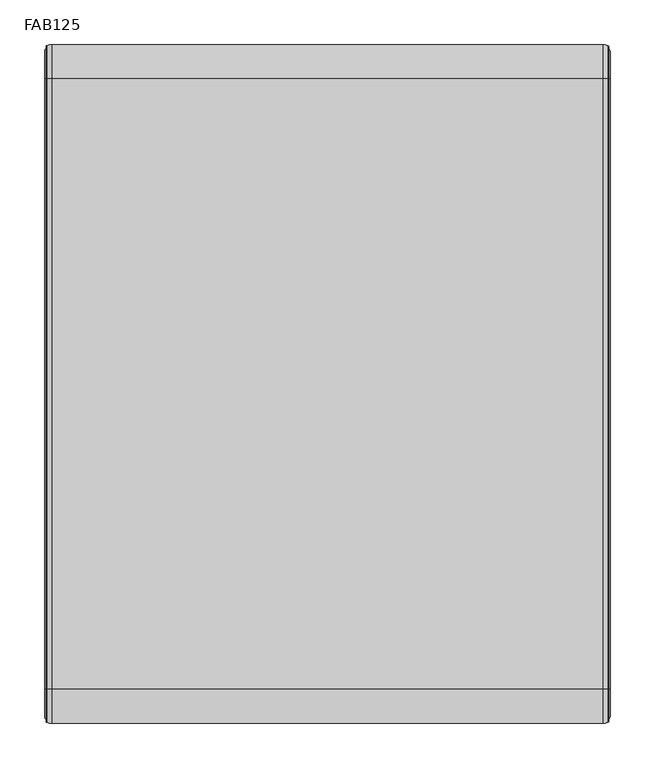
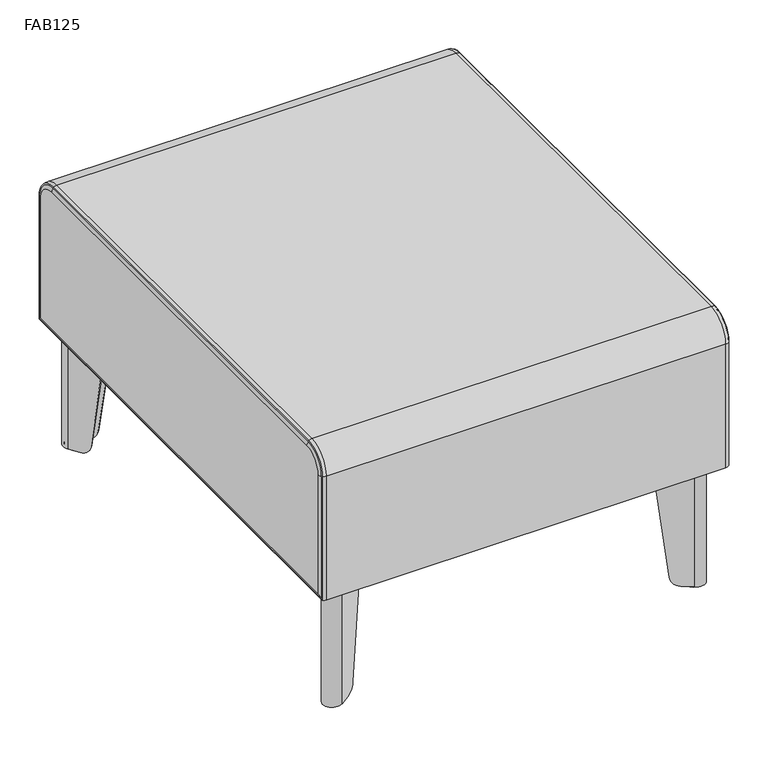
"""IFC4 building model written with IfcOpenShell, lengths in millimetres: furniture geometry, Stance_HC-Flora-Bench_Straight : FAB125."""

from ifc_helpers import new_model, si_unit, point, frame, frame_2d, origin, origin_with_axes, place, context, project, spatial, polyline, circle_curve, ellipse_curve, trimmed, segment, composite_curve, outline, extrude, source, transform, mapped, element, save
from ifc_brep_helpers import plane_surface, cylinder_surface, revolved_surface, advanced_brep


def fab125_ccfe8eac(model_context):
    return source(origin(), model_context, "Body", "SolidModel", [
        extrude(outline(composite_curve([segment(polyline([(579.1692791, -32.5186459), (592.4741789, -23.2024186)]), True, "CONTINUOUS"), segment(trimmed(circle_curve(frame_2d((599.1246983, -32.7003078)), 11.5947965), [point((592.4741789, -23.2024186))], [point((608.6225874, -39.3508272))], False, "CARTESIAN"), True, "CONTINUOUS"), segment(polyline([(608.6225874, -39.3508272), (599.3063601, -52.6557269), (579.1692791, -32.5186459)]), True, "CONTINUOUS")], self_intersect=False)), frame((0.0, 0.0, 3.175), z_axis=(0.0, 0.0, 1.0), x_axis=(1.0, 0.0, 0.0)), (0.0, 0.0, 1.0), 3.3792927),
        advanced_brep(
        [(579.3314582, -86.7866368, 193.6877233), (611.2555647, -41.1944649, 193.6877233), (590.6305412, -20.5694413, 193.6877233), (545.0383719, -52.4935459, 193.6877233), (546.8820096, -55.1265233, 193.6877233), (592.4741789, -23.2024186, 193.6877233), (608.6225874, -39.3508272, 193.6877233), (576.6984809, -84.9429991, 193.6877233), (579.3314582, -86.7866368, 189.1419595), (608.6225874, -39.3508272, 3.1876992), (598.5018779, -53.8046422, 3.1876992), (589.3247818, -66.9108427, 17.1280233), (592.4741789, -23.2024186, 3.1876992), (564.9141633, -42.5002243, 17.1280233), (578.0203639, -33.3231282, 3.1876992), (545.0383719, -52.4935459, 189.1419334), (590.6305412, -20.5694413, 3.1876992), (575.7124662, -31.0152305, 3.1876992), (562.6062656, -40.1923266, 17.1280233), (611.2555647, -41.1944649, 3.1876992), (591.6326795, -69.2187405, 17.1280233), (600.8097756, -56.1125399, 3.1876992)],
        [
            (0, 1),
            (1, 2, circle_curve(frame((599.1246983, -32.7003078, 193.6877233), z_axis=(0.0, 0.0, 1.0), x_axis=(-1.0, 0.0, 0.0)), 14.8090724)),
            (2, 3),
            (3, 4),
            (4, 5),
            (5, 6, circle_curve(frame((599.1246983, -32.7003078, 193.6877233), z_axis=(0.0, 0.0, -1.0), x_axis=(-1.0, 0.0, 0.0)), 11.5947965)),
            (6, 7),
            (7, 0),
            (7, 8),
            (8, 0),
            (6, 9),
            (9, 10),
            (10, 11, ellipse_curve(frame((598.5018779, -53.8046422, 19.0626992), z_axis=(-0.8191509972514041, 0.5735779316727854, 0.0), x_axis=(-0.5735779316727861, -0.8191509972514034, 0.0)), 16.1198923, 15.875)),
            (11, 7),
            (5, 12),
            (12, 9, circle_curve(frame((599.1246983, -32.7003078, 3.1876992), z_axis=(0.0, 0.0, -1.0), x_axis=(-1.0, 0.0, 0.0)), 11.5947965)),
            (4, 13),
            (13, 14, ellipse_curve(frame((578.0203639, -33.3231282, 19.0626992), z_axis=(0.5735779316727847, -0.8191509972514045, 0.0), x_axis=(0.8191509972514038, 0.5735779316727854, 0.0)), 16.1198923, 15.875)),
            (14, 12),
            (3, 15),
            (15, 4),
            (2, 16),
            (16, 17),
            (17, 18, ellipse_curve(frame((575.7124662, -31.0152305, 19.0626992), z_axis=(-0.5735779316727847, 0.8191509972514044, 0.0), x_axis=(0.8191509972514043, 0.573577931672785, 0.0)), 16.1198923, 15.875)),
            (18, 15),
            (1, 19),
            (19, 16, circle_curve(frame((599.1246983, -32.7003078, 3.1876992), z_axis=(0.0, 0.0, 1.0), x_axis=(-1.0, 0.0, 0.0)), 14.8090724)),
            (8, 20),
            (20, 21, ellipse_curve(frame((600.8097756, -56.1125399, 19.0626992), z_axis=(0.8191509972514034, -0.5735779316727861, 0.0), x_axis=(-0.5735779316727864, -0.8191509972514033, 0.0)), 16.1198923, 15.875)),
            (21, 19),
            (18, 13),
            (11, 20),
            (21, 10),
            (14, 17),
        ],
        [
            plane_surface(frame((576.6984809, -84.9429991, 193.6877233), z_axis=(0.0, 0.0, 1.0000000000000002), x_axis=(-0.8191509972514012, 0.5735779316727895, 0.0))),
            plane_surface(frame((579.3314582, -86.7866368, 193.6877233), z_axis=(-0.5735779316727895, -0.8191509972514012, 0.0), x_axis=(0.0, 0.0, -1.0))),
            plane_surface(frame((576.6984809, -84.9429991, 193.6877233), z_axis=(-0.8191509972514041, 0.5735779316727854, 0.0), x_axis=(0.0, 0.0, -1.0))),
            revolved_surface(polyline([(587.5299018, -32.7003078, 3.1876992), (587.5299018, -32.7003078, 193.6877233)]), (599.1246983, -32.7003078, 0.0), (0.0, 0.0, -1.0)),
            plane_surface(frame((592.4741789, -23.2024186, 193.6877233), z_axis=(0.5735779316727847, -0.8191509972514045, 0.0), x_axis=(0.0, 0.0, -1.0))),
            plane_surface(frame((546.8820096, -55.1265233, 193.6877233), z_axis=(-0.8191509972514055, -0.5735779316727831, 0.0), x_axis=(0.0, 0.0, -1.0))),
            plane_surface(frame((545.0383719, -52.4935459, 193.6877233), z_axis=(-0.5735779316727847, 0.8191509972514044, 0.0), x_axis=(0.0, 0.0, -1.0))),
            cylinder_surface(frame((599.1246983, -32.7003078, 0.0), z_axis=(0.0, 0.0, 1.0), x_axis=(-1.0, 0.0, 0.0)), 14.8090724),
            plane_surface(frame((611.2555647, -41.1944649, 193.6877233), z_axis=(0.8191509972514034, -0.5735779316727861, 0.0), x_axis=(0.0, 0.0, -1.0))),
            plane_surface(frame((556.7224625, -34.3085234, 17.1280233), z_axis=(-0.7018361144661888, -0.7018361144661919, -0.12186934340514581), x_axis=(0.7071067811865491, -0.707106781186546, 0.0))),
            plane_surface(frame((589.212818, -1.818168, 3.1876992), z_axis=(0.0, 0.0, -1.0), x_axis=(0.707106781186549, -0.707106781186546, 0.0))),
            cylinder_surface(frame((608.6497538, -63.9525182, 19.0626992), z_axis=(0.7071067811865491, -0.707106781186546, 0.0), x_axis=(-0.707106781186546, -0.7071067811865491, 0.0)), 15.875),
        ],
        [
            (0, [[1, 2, 3, 4, 5, 6, 7, 8]]),
            (1, [[9, 10, -8]]),
            (2, [[11, 12, 13, 14, -7]]),
            (3, [[15, 16, -11, -6]]),
            (4, [[17, 18, 19, -15, -5]]),
            (5, [[20, 21, -4]]),
            (6, [[22, 23, 24, 25, -20, -3]]),
            (7, [[26, 27, -22, -2]]),
            (8, [[-10, 28, 29, 30, -26, -1]]),
            (9, [[-17, -21, -25, 31]]),
            (9, [[-28, -9, -14, 32]]),
            (10, [[-23, -27, -30, 33, -12, -16, -19, 34]]),
            (11, [[-13, -33, -29, -32]]),
            (11, [[-24, -34, -18, -31]]),
        ],
    ),
        extrude(outline(composite_curve([segment(trimmed(circle_curve(frame_2d((597.0913541, -34.7252749)), 11.1125), [point((608.2038541, -34.7252749))], [point((585.9788541, -34.7252749))], False, "CARTESIAN"), True, "CONTINUOUS"), segment(trimmed(circle_curve(frame_2d((597.0913541, -34.7252749)), 11.1125), [point((585.9788541, -34.7252749))], [point((608.2038541, -34.7252749))], False, "CARTESIAN"), True, "CONTINUOUS")], self_intersect=False)), origin_with_axes(), (0.0, 0.0, 1.0), 3.175),
        extrude(outline(composite_curve([segment(trimmed(circle_curve(frame_2d((600.4438064, -31.3811988)), 15.8749964), [point((599.3364228, -15.5448732))], [point((616.2801321, -32.4885822))], False, "CARTESIAN"), True, "CONTINUOUS"), segment(polyline([(616.2801321, -32.4885822), (609.2831602, -132.5499778), (579.4327865, -162.4003462), (495.4896864, -136.3353271), (469.4246518, -52.3922188), (499.2750239, -22.5418467), (599.3364228, -15.5448732)]), True, "CONTINUOUS")], self_intersect=False)), frame((0.0, 0.0, 193.6877233), z_axis=(0.0, 0.0, 1.0), x_axis=(1.0, 0.0, 0.0)), (0.0, 0.0, 1.0), 4.7751809),
        extrude(outline(composite_curve([segment(polyline([(579.1692791, -729.4814086), (599.3063601, -709.3443276), (608.6225874, -722.6492273)]), True, "CONTINUOUS"), segment(trimmed(circle_curve(frame_2d((599.1246983, -729.2997467)), 11.5947965), [point((608.6225874, -722.6492273))], [point((592.4741789, -738.7976359))], False, "CARTESIAN"), True, "CONTINUOUS"), segment(polyline([(592.4741789, -738.7976359), (579.1692791, -729.4814086)]), True, "CONTINUOUS")], self_intersect=False)), frame((0.0, 0.0, 3.175), z_axis=(0.0, 0.0, 1.0), x_axis=(1.0, 0.0, 0.0)), (0.0, 0.0, 1.0), 3.3792927),
        advanced_brep(
        [(579.3314582, -675.2134177, 193.6877233), (576.6984809, -677.0570554, 193.6877233), (608.6225874, -722.6492273, 193.6877233), (592.4741789, -738.7976359, 193.6877233), (546.8820096, -706.8735312, 193.6877233), (545.0383719, -709.5065086, 193.6877233), (590.6305412, -741.4306132, 193.6877233), (611.2555647, -720.8055896, 193.6877233), (579.3314582, -675.2134177, 189.1419595), (589.3247818, -695.0892118, 17.1280233), (598.5018779, -708.1954123, 3.1876992), (608.6225874, -722.6492273, 3.1876992), (592.4741789, -738.7976359, 3.1876992), (578.0203639, -728.6769263, 3.1876992), (564.9141633, -719.4998302, 17.1280233), (545.0383719, -709.5065086, 189.1419334), (562.6062656, -721.8077279, 17.1280233), (575.7124662, -730.984824, 3.1876992), (590.6305412, -741.4306132, 3.1876992), (611.2555647, -720.8055896, 3.1876992), (600.8097756, -705.8875146, 3.1876992), (591.6326795, -692.781314, 17.1280233)],
        [
            (0, 1),
            (1, 2),
            (2, 3, circle_curve(frame((599.1246983, -729.2997467, 193.6877233), z_axis=(0.0, 0.0, -1.0), x_axis=(-1.0, 0.0, 0.0)), 11.5947965)),
            (3, 4),
            (4, 5),
            (5, 6),
            (6, 7, circle_curve(frame((599.1246983, -729.2997467, 193.6877233), z_axis=(0.0, 0.0, 1.0), x_axis=(-1.0, 0.0, 0.0)), 14.8090724)),
            (7, 0),
            (0, 8),
            (8, 1),
            (1, 9),
            (9, 10, ellipse_curve(frame((598.5018779, -708.1954123, 19.0626992), z_axis=(-0.8191509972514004, -0.5735779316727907, 0.0), x_axis=(-0.5735779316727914, 0.8191509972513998, 0.0)), 16.1198923, 15.875)),
            (10, 11),
            (11, 2),
            (11, 12, circle_curve(frame((599.1246983, -729.2997467, 3.1876992), z_axis=(0.0, 0.0, -1.0), x_axis=(-1.0, 0.0, 0.0)), 11.5947965)),
            (12, 3),
            (12, 13),
            (13, 14, ellipse_curve(frame((578.0203639, -728.6769263, 19.0626992), z_axis=(0.5735779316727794, 0.8191509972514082, 0.0), x_axis=(0.8191509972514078, -0.5735779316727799, 0.0)), 16.1198923, 15.875)),
            (14, 4),
            (4, 15),
            (15, 5),
            (15, 16),
            (16, 17, ellipse_curve(frame((575.7124662, -730.984824, 19.0626992), z_axis=(-0.5735779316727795, -0.8191509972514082, 0.0), x_axis=(0.8191509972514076, -0.5735779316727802, 0.0)), 16.1198923, 15.875)),
            (17, 18),
            (18, 6),
            (18, 19, circle_curve(frame((599.1246983, -729.2997467, 3.1876992), z_axis=(0.0, 0.0, 1.0), x_axis=(-1.0, 0.0, 0.0)), 14.8090724)),
            (19, 7),
            (19, 20),
            (20, 21, ellipse_curve(frame((600.8097756, -705.8875146, 19.0626992), z_axis=(0.8191509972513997, 0.5735779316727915, 0.0), x_axis=(-0.573577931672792, 0.8191509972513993, 0.0)), 16.1198923, 15.875)),
            (21, 8),
            (14, 16),
            (21, 9),
            (17, 13),
            (10, 20),
        ],
        [
            plane_surface(frame((576.6984809, -677.0570554, 193.6877233), z_axis=(0.0, 0.0, 0.9999999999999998), x_axis=(-0.8191509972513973, -0.5735779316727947, 0.0))),
            plane_surface(frame((579.3314582, -675.2134177, 193.6877233), z_axis=(-0.5735779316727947, 0.8191509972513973, 0.0), x_axis=(0.0, 0.0, -1.0))),
            plane_surface(frame((576.6984809, -677.0570554, 193.6877233), z_axis=(-0.8191509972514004, -0.5735779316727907, 0.0), x_axis=(0.0, 0.0, -1.0))),
            revolved_surface(polyline([(587.5299018, -729.2997467, 3.1876992), (587.5299018, -729.2997467, 193.6877233)]), (599.1246983, -729.2997467, 0.0), (0.0, 0.0, -1.0)),
            plane_surface(frame((592.4741789, -738.7976359, 193.6877233), z_axis=(0.5735779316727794, 0.8191509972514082, 0.0), x_axis=(0.0, 0.0, -1.0))),
            plane_surface(frame((546.8820096, -706.8735312, 193.6877233), z_axis=(-0.8191509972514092, 0.5735779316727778, 0.0), x_axis=(0.0, 0.0, -1.0))),
            plane_surface(frame((545.0383719, -709.5065086, 193.6877233), z_axis=(-0.5735779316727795, -0.8191509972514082, 0.0), x_axis=(0.0, 0.0, -1.0))),
            cylinder_surface(frame((599.1246983, -729.2997467, 0.0), z_axis=(0.0, 0.0, 1.0), x_axis=(-1.0, 0.0, 0.0)), 14.8090724),
            plane_surface(frame((611.2555647, -720.8055896, 193.6877233), z_axis=(0.8191509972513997, 0.5735779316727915, 0.0), x_axis=(0.0, 0.0, -1.0))),
            plane_surface(frame((556.7224625, -727.6915311, 17.1280233), z_axis=(-0.7018361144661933, 0.7018361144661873, -0.12186934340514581), x_axis=(0.7071067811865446, 0.7071067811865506, 0.0))),
            plane_surface(frame((589.212818, -760.1818865, 3.1876992), z_axis=(0.0, 0.0, -1.0), x_axis=(0.7071067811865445, 0.7071067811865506, 0.0))),
            cylinder_surface(frame((608.6497538, -698.0475363, 19.0626992), z_axis=(0.7071067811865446, 0.7071067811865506, 0.0), x_axis=(-0.7071067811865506, 0.7071067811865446, 0.0)), 15.875),
        ],
        [
            (0, [[1, 2, 3, 4, 5, 6, 7, 8]]),
            (1, [[-1, 9, 10]]),
            (2, [[-2, 11, 12, 13, 14]]),
            (3, [[-3, -14, 15, 16]]),
            (4, [[-4, -16, 17, 18, 19]]),
            (5, [[-5, 20, 21]]),
            (6, [[-6, -21, 22, 23, 24, 25]]),
            (7, [[-7, -25, 26, 27]]),
            (8, [[-8, -27, 28, 29, 30, -9]]),
            (9, [[31, -22, -20, -19]]),
            (9, [[32, -11, -10, -30]]),
            (10, [[33, -17, -15, -13, 34, -28, -26, -24]]),
            (11, [[-31, -18, -33, -23]]),
            (11, [[-32, -29, -34, -12]]),
        ],
    ),
        extrude(outline(composite_curve([segment(trimmed(circle_curve(frame_2d((597.0913541, -727.2747796)), 11.1125), [point((608.2038541, -727.2747796))], [point((585.9788541, -727.2747796))], False, "CARTESIAN"), True, "CONTINUOUS"), segment(trimmed(circle_curve(frame_2d((597.0913541, -727.2747796)), 11.1125), [point((585.9788541, -727.2747796))], [point((608.2038541, -727.2747796))], False, "CARTESIAN"), True, "CONTINUOUS")], self_intersect=False)), origin_with_axes(), (0.0, 0.0, 1.0), 3.175),
        extrude(outline(composite_curve([segment(polyline([(599.3364228, -746.4551813), (499.2750239, -739.4582078), (469.4246518, -709.6078357), (495.4896864, -625.6647274), (579.4327865, -599.5997083), (609.2831602, -629.4500767), (616.2801321, -729.5114723)]), True, "CONTINUOUS"), segment(trimmed(circle_curve(frame_2d((600.4438064, -730.6188557)), 15.8749964), [point((616.2801321, -729.5114723))], [point((599.3364228, -746.4551813))], False, "CARTESIAN"), True, "CONTINUOUS")], self_intersect=False)), frame((0.0, 0.0, 193.6877233), z_axis=(0.0, 0.0, 1.0), x_axis=(1.0, 0.0, 0.0)), (0.0, 0.0, 1.0), 4.7751809),
        extrude(outline(composite_curve([segment(polyline([(55.8307262, -729.4814086), (42.5258264, -738.7976359)]), True, "CONTINUOUS"), segment(trimmed(circle_curve(frame_2d((35.875307, -729.2997467)), 11.5947965), [point((42.5258264, -738.7976359))], [point((26.3774179, -722.6492273))], False, "CARTESIAN"), True, "CONTINUOUS"), segment(polyline([(26.3774179, -722.6492273), (35.6936452, -709.3443276), (55.8307262, -729.4814086)]), True, "CONTINUOUS")], self_intersect=False)), frame((0.0, 0.0, 3.175), z_axis=(0.0, 0.0, 1.0), x_axis=(1.0, 0.0, 0.0)), (0.0, 0.0, 1.0), 3.3792927),
        advanced_brep(
        [(55.6685471, -675.2134177, 193.6877233), (23.7444406, -720.8055896, 193.6877233), (44.3694641, -741.4306132, 193.6877233), (89.9616334, -709.5065086, 193.6877233), (88.1179957, -706.8735312, 193.6877233), (42.5258264, -738.7976359, 193.6877233), (26.3774179, -722.6492273, 193.6877233), (58.3015244, -677.0570554, 193.6877233), (55.6685471, -675.2134177, 189.1419595), (26.3774179, -722.6492273, 3.1876992), (36.4981274, -708.1954123, 3.1876992), (45.6752235, -695.0892118, 17.1280233), (42.5258264, -738.7976359, 3.1876992), (70.085842, -719.4998302, 17.1280233), (56.9796414, -728.6769263, 3.1876992), (89.9616334, -709.5065086, 189.1419334), (44.3694641, -741.4306132, 3.1876992), (59.2875391, -730.984824, 3.1876992), (72.3937397, -721.8077279, 17.1280233), (23.7444406, -720.8055896, 3.1876992), (43.3673258, -692.781314, 17.1280233), (34.1902297, -705.8875146, 3.1876992)],
        [
            (0, 1),
            (1, 2, circle_curve(frame((35.875307, -729.2997467, 193.6877233), z_axis=(0.0, 0.0, 1.0), x_axis=(1.0, 0.0, 0.0)), 14.8090724)),
            (2, 3),
            (3, 4),
            (4, 5),
            (5, 6, circle_curve(frame((35.875307, -729.2997467, 193.6877233), z_axis=(0.0, 0.0, -1.0), x_axis=(1.0, 0.0, 0.0)), 11.5947965)),
            (6, 7),
            (7, 0),
            (7, 8),
            (8, 0),
            (6, 9),
            (9, 10),
            (10, 11, ellipse_curve(frame((36.4981274, -708.1954123, 19.0626992), z_axis=(0.8191509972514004, -0.5735779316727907, 0.0), x_axis=(0.5735779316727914, 0.8191509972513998, 0.0)), 16.1198923, 15.875)),
            (11, 7),
            (5, 12),
            (12, 9, circle_curve(frame((35.875307, -729.2997467, 3.1876992), z_axis=(0.0, 0.0, -1.0), x_axis=(1.0, 0.0, 0.0)), 11.5947965)),
            (4, 13),
            (13, 14, ellipse_curve(frame((56.9796414, -728.6769263, 19.0626992), z_axis=(-0.5735779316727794, 0.8191509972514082, 0.0), x_axis=(-0.8191509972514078, -0.5735779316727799, 0.0)), 16.1198923, 15.875)),
            (14, 12),
            (3, 15),
            (15, 4),
            (2, 16),
            (16, 17),
            (17, 18, ellipse_curve(frame((59.2875391, -730.984824, 19.0626992), z_axis=(0.5735779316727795, -0.8191509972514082, 0.0), x_axis=(-0.8191509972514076, -0.5735779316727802, 0.0)), 16.1198923, 15.875)),
            (18, 15),
            (1, 19),
            (19, 16, circle_curve(frame((35.875307, -729.2997467, 3.1876992), z_axis=(0.0, 0.0, 1.0), x_axis=(1.0, 0.0, 0.0)), 14.8090724)),
            (8, 20),
            (20, 21, ellipse_curve(frame((34.1902297, -705.8875146, 19.0626992), z_axis=(-0.8191509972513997, 0.5735779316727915, 0.0), x_axis=(0.573577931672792, 0.8191509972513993, 0.0)), 16.1198923, 15.875)),
            (21, 19),
            (18, 13),
            (11, 20),
            (21, 10),
            (14, 17),
        ],
        [
            plane_surface(frame((58.3015244, -677.0570554, 193.6877233), z_axis=(0.0, 0.0, 0.9999999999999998), x_axis=(0.8191509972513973, -0.5735779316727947, 0.0))),
            plane_surface(frame((55.6685471, -675.2134177, 193.6877233), z_axis=(0.5735779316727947, 0.8191509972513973, 0.0), x_axis=(0.0, 0.0, -1.0))),
            plane_surface(frame((58.3015244, -677.0570554, 193.6877233), z_axis=(0.8191509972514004, -0.5735779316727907, 0.0), x_axis=(0.0, 0.0, -1.0))),
            revolved_surface(polyline([(47.4701035, -729.2997467, 3.1876992), (47.4701035, -729.2997467, 193.6877233)]), (35.875307, -729.2997467, 0.0), (0.0, 0.0, -1.0)),
            plane_surface(frame((42.5258264, -738.7976359, 193.6877233), z_axis=(-0.5735779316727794, 0.8191509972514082, 0.0), x_axis=(0.0, 0.0, -1.0))),
            plane_surface(frame((88.1179957, -706.8735312, 193.6877233), z_axis=(0.8191509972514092, 0.5735779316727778, 0.0), x_axis=(0.0, 0.0, -1.0))),
            plane_surface(frame((89.9616334, -709.5065086, 193.6877233), z_axis=(0.5735779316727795, -0.8191509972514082, 0.0), x_axis=(0.0, 0.0, -1.0))),
            cylinder_surface(frame((35.875307, -729.2997467, 0.0), z_axis=(0.0, 0.0, 1.0), x_axis=(1.0, 0.0, 0.0)), 14.8090724),
            plane_surface(frame((23.7444406, -720.8055896, 193.6877233), z_axis=(-0.8191509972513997, 0.5735779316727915, 0.0), x_axis=(0.0, 0.0, -1.0))),
            plane_surface(frame((78.2775428, -727.6915311, 17.1280233), z_axis=(0.7018361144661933, 0.7018361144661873, -0.12186934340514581), x_axis=(-0.7071067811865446, 0.7071067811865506, 0.0))),
            plane_surface(frame((45.7871873, -760.1818865, 3.1876992), z_axis=(0.0, 0.0, -1.0), x_axis=(-0.7071067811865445, 0.7071067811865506, 0.0))),
            cylinder_surface(frame((26.3502515, -698.0475363, 19.0626992), z_axis=(-0.7071067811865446, 0.7071067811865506, 0.0), x_axis=(0.7071067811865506, 0.7071067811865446, 0.0)), 15.875),
        ],
        [
            (0, [[1, 2, 3, 4, 5, 6, 7, 8]]),
            (1, [[9, 10, -8]]),
            (2, [[11, 12, 13, 14, -7]]),
            (3, [[15, 16, -11, -6]]),
            (4, [[17, 18, 19, -15, -5]]),
            (5, [[20, 21, -4]]),
            (6, [[22, 23, 24, 25, -20, -3]]),
            (7, [[26, 27, -22, -2]]),
            (8, [[-10, 28, 29, 30, -26, -1]]),
            (9, [[-17, -21, -25, 31]]),
            (9, [[-28, -9, -14, 32]]),
            (10, [[-23, -27, -30, 33, -12, -16, -19, 34]]),
            (11, [[-13, -33, -29, -32]]),
            (11, [[-24, -34, -18, -31]]),
        ],
    ),
        extrude(outline(composite_curve([segment(trimmed(circle_curve(frame_2d((37.9086512, -727.2747796)), 11.1125), [point((26.7961512, -727.2747796))], [point((49.0211512, -727.2747796))], False, "CARTESIAN"), True, "CONTINUOUS"), segment(trimmed(circle_curve(frame_2d((37.9086512, -727.2747796)), 11.1125), [point((49.0211512, -727.2747796))], [point((26.7961512, -727.2747796))], False, "CARTESIAN"), True, "CONTINUOUS")], self_intersect=False)), origin_with_axes(), (0.0, 0.0, 1.0), 3.175),
        extrude(outline(composite_curve([segment(trimmed(circle_curve(frame_2d((34.5561989, -730.6188557)), 15.8749964), [point((35.6635825, -746.4551813))], [point((18.7198732, -729.5114723))], False, "CARTESIAN"), True, "CONTINUOUS"), segment(polyline([(18.7198732, -729.5114723), (25.7168451, -629.4500767), (55.5672188, -599.5997083), (139.5103189, -625.6647274), (165.5753535, -709.6078357), (135.7249814, -739.4582078), (35.6635825, -746.4551813)]), True, "CONTINUOUS")], self_intersect=False)), frame((0.0, 0.0, 193.6877233), z_axis=(0.0, 0.0, 1.0), x_axis=(1.0, 0.0, 0.0)), (0.0, 0.0, 1.0), 4.7751809),
        extrude(outline(composite_curve([segment(polyline([(55.8307262, -32.5186459), (35.6936452, -52.6557269), (26.3774179, -39.3508272)]), True, "CONTINUOUS"), segment(trimmed(circle_curve(frame_2d((35.875307, -32.7003078)), 11.5947965), [point((26.3774179, -39.3508272))], [point((42.5258264, -23.2024186))], False, "CARTESIAN"), True, "CONTINUOUS"), segment(polyline([(42.5258264, -23.2024186), (55.8307262, -32.5186459)]), True, "CONTINUOUS")], self_intersect=False)), frame((0.0, 0.0, 3.175), z_axis=(0.0, 0.0, 1.0), x_axis=(1.0, 0.0, 0.0)), (0.0, 0.0, 1.0), 3.3792927),
        advanced_brep(
        [(55.6685471, -86.7866368, 193.6877233), (58.3015244, -84.9429991, 193.6877233), (26.3774179, -39.3508272, 193.6877233), (42.5258264, -23.2024186, 193.6877233), (88.1179957, -55.1265233, 193.6877233), (89.9616334, -52.4935459, 193.6877233), (44.3694641, -20.5694413, 193.6877233), (23.7444406, -41.1944649, 193.6877233), (55.6685471, -86.7866368, 189.1419595), (45.6752235, -66.9108427, 17.1280233), (36.4981274, -53.8046422, 3.1876992), (26.3774179, -39.3508272, 3.1876992), (42.5258264, -23.2024186, 3.1876992), (56.9796414, -33.3231282, 3.1876992), (70.085842, -42.5002243, 17.1280233), (89.9616334, -52.4935459, 189.1419334), (72.3937397, -40.1923266, 17.1280233), (59.2875391, -31.0152305, 3.1876992), (44.3694641, -20.5694413, 3.1876992), (23.7444406, -41.1944649, 3.1876992), (34.1902297, -56.1125399, 3.1876992), (43.3673258, -69.2187405, 17.1280233)],
        [
            (0, 1),
            (1, 2),
            (2, 3, circle_curve(frame((35.875307, -32.7003078, 193.6877233), z_axis=(0.0, 0.0, -1.0), x_axis=(1.0, 0.0, 0.0)), 11.5947965)),
            (3, 4),
            (4, 5),
            (5, 6),
            (6, 7, circle_curve(frame((35.875307, -32.7003078, 193.6877233), z_axis=(0.0, 0.0, 1.0), x_axis=(1.0, 0.0, 0.0)), 14.8090724)),
            (7, 0),
            (0, 8),
            (8, 1),
            (1, 9),
            (9, 10, ellipse_curve(frame((36.4981274, -53.8046422, 19.0626992), z_axis=(0.8191509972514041, 0.5735779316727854, 0.0), x_axis=(0.5735779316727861, -0.8191509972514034, 0.0)), 16.1198923, 15.875)),
            (10, 11),
            (11, 2),
            (11, 12, circle_curve(frame((35.875307, -32.7003078, 3.1876992), z_axis=(0.0, 0.0, -1.0), x_axis=(1.0, 0.0, 0.0)), 11.5947965)),
            (12, 3),
            (12, 13),
            (13, 14, ellipse_curve(frame((56.9796414, -33.3231282, 19.0626992), z_axis=(-0.5735779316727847, -0.8191509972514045, 0.0), x_axis=(-0.8191509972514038, 0.5735779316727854, 0.0)), 16.1198923, 15.875)),
            (14, 4),
            (4, 15),
            (15, 5),
            (15, 16),
            (16, 17, ellipse_curve(frame((59.2875391, -31.0152305, 19.0626992), z_axis=(0.5735779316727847, 0.8191509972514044, 0.0), x_axis=(-0.8191509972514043, 0.573577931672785, 0.0)), 16.1198923, 15.875)),
            (17, 18),
            (18, 6),
            (18, 19, circle_curve(frame((35.875307, -32.7003078, 3.1876992), z_axis=(0.0, 0.0, 1.0), x_axis=(1.0, 0.0, 0.0)), 14.8090724)),
            (19, 7),
            (19, 20),
            (20, 21, ellipse_curve(frame((34.1902297, -56.1125399, 19.0626992), z_axis=(-0.8191509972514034, -0.5735779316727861, 0.0), x_axis=(0.5735779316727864, -0.8191509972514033, 0.0)), 16.1198923, 15.875)),
            (21, 8),
            (14, 16),
            (21, 9),
            (17, 13),
            (10, 20),
        ],
        [
            plane_surface(frame((58.3015244, -84.9429991, 193.6877233), z_axis=(0.0, 0.0, 1.0000000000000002), x_axis=(0.8191509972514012, 0.5735779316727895, 0.0))),
            plane_surface(frame((55.6685471, -86.7866368, 193.6877233), z_axis=(0.5735779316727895, -0.8191509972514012, 0.0), x_axis=(0.0, 0.0, -1.0))),
            plane_surface(frame((58.3015244, -84.9429991, 193.6877233), z_axis=(0.8191509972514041, 0.5735779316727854, 0.0), x_axis=(0.0, 0.0, -1.0))),
            revolved_surface(polyline([(47.4701035, -32.7003078, 3.1876992), (47.4701035, -32.7003078, 193.6877233)]), (35.875307, -32.7003078, 0.0), (0.0, 0.0, -1.0)),
            plane_surface(frame((42.5258264, -23.2024186, 193.6877233), z_axis=(-0.5735779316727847, -0.8191509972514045, 0.0), x_axis=(0.0, 0.0, -1.0))),
            plane_surface(frame((88.1179957, -55.1265233, 193.6877233), z_axis=(0.8191509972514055, -0.5735779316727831, 0.0), x_axis=(0.0, 0.0, -1.0))),
            plane_surface(frame((89.9616334, -52.4935459, 193.6877233), z_axis=(0.5735779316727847, 0.8191509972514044, 0.0), x_axis=(0.0, 0.0, -1.0))),
            cylinder_surface(frame((35.875307, -32.7003078, 0.0), z_axis=(0.0, 0.0, 1.0), x_axis=(1.0, 0.0, 0.0)), 14.8090724),
            plane_surface(frame((23.7444406, -41.1944649, 193.6877233), z_axis=(-0.8191509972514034, -0.5735779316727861, 0.0), x_axis=(0.0, 0.0, -1.0))),
            plane_surface(frame((78.2775428, -34.3085234, 17.1280233), z_axis=(0.7018361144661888, -0.7018361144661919, -0.12186934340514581), x_axis=(-0.7071067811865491, -0.707106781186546, 0.0))),
            plane_surface(frame((45.7871873, -1.818168, 3.1876992), z_axis=(0.0, 0.0, -1.0), x_axis=(-0.707106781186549, -0.707106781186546, 0.0))),
            cylinder_surface(frame((26.3502515, -63.9525182, 19.0626992), z_axis=(-0.7071067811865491, -0.707106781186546, 0.0), x_axis=(0.707106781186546, -0.7071067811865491, 0.0)), 15.875),
        ],
        [
            (0, [[1, 2, 3, 4, 5, 6, 7, 8]]),
            (1, [[-1, 9, 10]]),
            (2, [[-2, 11, 12, 13, 14]]),
            (3, [[-3, -14, 15, 16]]),
            (4, [[-4, -16, 17, 18, 19]]),
            (5, [[-5, 20, 21]]),
            (6, [[-6, -21, 22, 23, 24, 25]]),
            (7, [[-7, -25, 26, 27]]),
            (8, [[-8, -27, 28, 29, 30, -9]]),
            (9, [[31, -22, -20, -19]]),
            (9, [[32, -11, -10, -30]]),
            (10, [[33, -17, -15, -13, 34, -28, -26, -24]]),
            (11, [[-31, -18, -33, -23]]),
            (11, [[-32, -29, -34, -12]]),
        ],
    ),
        extrude(outline(composite_curve([segment(trimmed(circle_curve(frame_2d((37.9086512, -34.7252749)), 11.1125), [point((26.7961512, -34.7252749))], [point((49.0211512, -34.7252749))], False, "CARTESIAN"), True, "CONTINUOUS"), segment(trimmed(circle_curve(frame_2d((37.9086512, -34.7252749)), 11.1125), [point((49.0211512, -34.7252749))], [point((26.7961512, -34.7252749))], False, "CARTESIAN"), True, "CONTINUOUS")], self_intersect=False)), origin_with_axes(), (0.0, 0.0, 1.0), 3.175),
        extrude(outline(composite_curve([segment(polyline([(35.6635825, -15.5448732), (135.7249814, -22.5418467), (165.5753535, -52.3922188), (139.5103189, -136.3353271), (55.5672188, -162.4003462), (25.7168451, -132.5499778), (18.7198732, -32.4885822)]), True, "CONTINUOUS"), segment(trimmed(circle_curve(frame_2d((34.5561989, -31.3811988)), 15.8749964), [point((18.7198732, -32.4885822))], [point((35.6635825, -15.5448732))], False, "CARTESIAN"), True, "CONTINUOUS")], self_intersect=False)), frame((0.0, 0.0, 193.6877233), z_axis=(0.0, 0.0, 1.0), x_axis=(1.0, 0.0, 0.0)), (0.0, 0.0, 1.0), 4.7751809),
        advanced_brep(
        [(635.0, -723.9, 431.00625), (635.0, -753.26875, 401.6375), (635.0, -753.26875, 207.1687439), (635.0, -8.73125, 207.1687439), (635.0, -8.73125, 401.6375), (635.0, -38.1, 431.00625), (0.0, -753.26875, 401.6375), (0.0, -723.9, 431.00625), (0.0, -38.1, 431.00625), (0.0, -8.73125, 401.6375), (0.0, -8.73125, 207.1687439), (0.0, -753.26875, 207.1687439), (626.5158065, -762.0, 401.6375), (626.5158065, -723.9, 439.7375), (8.4841935, -723.9, 439.7375), (8.4841935, -762.0, 401.6375), (8.4841935, -762.0, 198.4374939), (626.5158065, -762.0, 198.4374939), (8.4841935, 0.0, 198.4374939), (626.5158065, 0.0, 198.4374939), (8.4841935, 0.0, 401.6375), (626.5158065, 0.0, 401.6375), (8.4841935, -38.1, 439.7375), (626.5158065, -38.1, 439.7375), (2.6434528, -758.9617195, 401.6375), (2.6434528, -723.9, 436.6992195), (2.5810757, -760.8954092, 401.6375), (2.5810757, -723.9, 438.6329092), (2.6434528, -758.9617195, 201.4757744), (2.5810757, -760.8954092, 199.5420847), (2.6434528, -3.0382805, 201.4757744), (2.5810757, -1.1045908, 199.5420847), (2.6434528, -3.0382805, 401.6375), (2.5810757, -1.1045908, 401.6375), (2.6434528, -38.1, 436.6992195), (2.5810757, -38.1, 438.6329092), (632.4189243, -760.8954092, 401.6375), (632.4189243, -723.9, 438.6329092), (632.3565472, -758.9617195, 401.6375), (632.3565472, -723.9, 436.6992195), (632.4189243, -760.8954092, 199.5420847), (632.3565472, -758.9617195, 201.4757744), (632.4189243, -1.1045908, 199.5420847), (632.3565472, -3.0382805, 201.4757744), (632.4189243, -1.1045908, 401.6375), (632.3565472, -3.0382805, 401.6375), (632.4189243, -38.1, 438.6329092), (632.3565472, -38.1, 436.6992195)],
        [
            (0, 1, circle_curve(frame((635.0, -723.9, 401.6375), z_axis=(1.0, 0.0, 0.0), x_axis=(0.0, 0.0, 1.0)), 29.36875)),
            (1, 2),
            (2, 3),
            (3, 4),
            (4, 5, circle_curve(frame((635.0, -38.1, 401.6375), z_axis=(1.0, 0.0, 0.0), x_axis=(0.0, 1.0, 0.0)), 29.36875)),
            (5, 0),
            (6, 7, circle_curve(frame((0.0, -723.9, 401.6375), z_axis=(-1.0, 0.0, 0.0), x_axis=(0.0, 0.0, 1.0)), 29.36875)),
            (7, 8),
            (8, 9, circle_curve(frame((0.0, -38.1, 401.6375), z_axis=(-1.0, 0.0, 0.0), x_axis=(0.0, 1.0, 0.0)), 29.36875)),
            (9, 10),
            (10, 11),
            (11, 6),
            (12, 13, circle_curve(frame((626.5158065, -723.9, 401.6375), z_axis=(-1.0, 0.0, 0.0), x_axis=(0.0, 0.0, 1.0)), 38.1)),
            (13, 14),
            (14, 15, circle_curve(frame((8.4841935, -723.9, 401.6375), z_axis=(1.0, 0.0, 0.0), x_axis=(0.0, 0.0, 1.0)), 38.1)),
            (15, 12),
            (15, 16),
            (16, 17),
            (17, 12),
            (16, 18),
            (18, 19),
            (19, 17),
            (18, 20),
            (20, 21),
            (21, 19),
            (20, 22, circle_curve(frame((8.4841935, -38.1, 401.6375), z_axis=(1.0, 0.0, 0.0), x_axis=(0.0, 1.0, 0.0)), 38.1)),
            (22, 23),
            (23, 21, circle_curve(frame((626.5158065, -38.1, 401.6375), z_axis=(-1.0, 0.0, 0.0), x_axis=(0.0, 1.0, 0.0)), 38.1)),
            (13, 23),
            (22, 14),
            (24, 25, circle_curve(frame((2.6434528, -723.9, 401.6375), z_axis=(-1.0, 0.0, 0.0), x_axis=(0.0, 0.0, 1.0)), 35.0617195)),
            (25, 7, circle_curve(frame((7.4519478, -723.9, 431.00625), z_axis=(0.0, -1.0, 0.0), x_axis=(0.0, 0.0, -1.0)), 7.4519478)),
            (6, 24, circle_curve(frame((7.4519478, -753.26875, 401.6375), z_axis=(0.0, 0.0, 1.0), x_axis=(0.0, 1.0, 0.0)), 7.4519478)),
            (24, 26, circle_curve(frame((2.9517888, -759.9395168, 401.6375), z_axis=(0.0, 0.0, 1.0), x_axis=(0.0, 1.0, 0.0)), 1.0252602)),
            (26, 27, circle_curve(frame((2.5810757, -723.9, 401.6375), z_axis=(-1.0, 0.0, 0.0), x_axis=(0.0, 0.0, 1.0)), 36.9954092)),
            (27, 25, circle_curve(frame((2.9517888, -723.9, 437.6770168), z_axis=(0.0, -1.0, 0.0), x_axis=(0.0, 0.0, -1.0)), 1.0252602)),
            (14, 27, circle_curve(frame((8.4841935, -723.9, 423.4115809), z_axis=(0.0, -1.0, 0.0), x_axis=(0.0, 0.0, -1.0)), 16.3259191)),
            (26, 15, circle_curve(frame((8.4841935, -745.6740809, 401.6375), z_axis=(0.0, 0.0, 1.0), x_axis=(0.0, 1.0, 0.0)), 16.3259191)),
            (11, 28, ellipse_curve(frame((7.4519478, -753.26875, 207.1687439), z_axis=(0.0, -0.7071067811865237, 0.7071067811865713), x_axis=(0.0, 0.7071067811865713, 0.7071067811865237)), 10.5386456, 7.4519478)),
            (28, 24),
            (28, 29, ellipse_curve(frame((2.9517888, -759.9395168, 200.4979772), z_axis=(0.0, -0.7071067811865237, 0.7071067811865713), x_axis=(0.0, 0.7071067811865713, 0.7071067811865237)), 1.4499369, 1.0252602)),
            (29, 26),
            (29, 16, ellipse_curve(frame((8.4841935, -745.6740809, 214.763413), z_axis=(0.0, -0.7071067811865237, 0.7071067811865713), x_axis=(0.0, 0.7071067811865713, 0.7071067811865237)), 23.0883362, 16.3259191)),
            (10, 30, ellipse_curve(frame((7.4519478, -8.73125, 207.1687439), z_axis=(0.0, -0.7071067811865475, -0.7071067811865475), x_axis=(0.0, -0.7071067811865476, 0.7071067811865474)), 10.5386456, 7.4519478)),
            (30, 28),
            (30, 31, ellipse_curve(frame((2.9517888, -2.0604832, 200.4979772), z_axis=(0.0, -0.7071067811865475, -0.7071067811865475), x_axis=(0.0, -0.7071067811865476, 0.7071067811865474)), 1.4499369, 1.0252602)),
            (31, 29),
            (31, 18, ellipse_curve(frame((8.4841935, -16.3259191, 214.763413), z_axis=(0.0, -0.7071067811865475, -0.7071067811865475), x_axis=(0.0, -0.7071067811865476, 0.7071067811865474)), 23.0883362, 16.3259191)),
            (9, 32, circle_curve(frame((7.4519478, -8.73125, 401.6375), z_axis=(0.0, 0.0, -1.0), x_axis=(0.0, -1.0, 0.0)), 7.4519478)),
            (32, 30),
            (32, 33, circle_curve(frame((2.9517888, -2.0604832, 401.6375), z_axis=(0.0, 0.0, -1.0), x_axis=(0.0, -1.0, 0.0)), 1.0252602)),
            (33, 31),
            (33, 20, circle_curve(frame((8.4841935, -16.3259191, 401.6375), z_axis=(0.0, 0.0, -1.0), x_axis=(0.0, -1.0, 0.0)), 16.3259191)),
            (8, 34, circle_curve(frame((7.4519478, -38.1, 431.00625), z_axis=(0.0, 1.0, 0.0), x_axis=(0.0, 0.0, -1.0)), 7.4519478)),
            (34, 32, circle_curve(frame((2.6434528, -38.1, 401.6375), z_axis=(-1.0, 0.0, 0.0), x_axis=(0.0, 1.0, 0.0)), 35.0617195)),
            (34, 35, circle_curve(frame((2.9517888, -38.1, 437.6770168), z_axis=(0.0, 1.0, 0.0), x_axis=(0.0, 0.0, -1.0)), 1.0252602)),
            (35, 33, circle_curve(frame((2.5810757, -38.1, 401.6375), z_axis=(-1.0, 0.0, 0.0), x_axis=(0.0, 1.0, 0.0)), 36.9954092)),
            (35, 22, circle_curve(frame((8.4841935, -38.1, 423.4115809), z_axis=(0.0, 1.0, 0.0), x_axis=(0.0, 0.0, -1.0)), 16.3259191)),
            (25, 34),
            (27, 35),
            (12, 36, circle_curve(frame((626.5158065, -745.6740809, 401.6375), z_axis=(0.0, 0.0, 1.0), x_axis=(0.0, 1.0, 0.0)), 16.3259191)),
            (36, 37, circle_curve(frame((632.4189243, -723.9, 401.6375), z_axis=(-1.0, 0.0, 0.0), x_axis=(0.0, 0.0, 1.0)), 36.9954092)),
            (37, 13, circle_curve(frame((626.5158065, -723.9, 423.4115809), z_axis=(0.0, -1.0, 0.0), x_axis=(0.0, 0.0, -1.0)), 16.3259191)),
            (36, 38, circle_curve(frame((632.0482112, -759.9395168, 401.6375), z_axis=(0.0, 0.0, 1.0), x_axis=(0.0, 1.0, 0.0)), 1.0252602)),
            (38, 39, circle_curve(frame((632.3565472, -723.9, 401.6375), z_axis=(-1.0, 0.0, 0.0), x_axis=(0.0, 0.0, 1.0)), 35.0617195)),
            (39, 37, circle_curve(frame((632.0482112, -723.9, 437.6770168), z_axis=(0.0, -1.0, 0.0), x_axis=(0.0, 0.0, -1.0)), 1.0252602)),
            (38, 1, circle_curve(frame((627.5480522, -753.26875, 401.6375), z_axis=(0.0, 0.0, 1.0), x_axis=(0.0, 1.0, 0.0)), 7.4519478)),
            (0, 39, circle_curve(frame((627.5480522, -723.9, 431.00625), z_axis=(0.0, -1.0, 0.0), x_axis=(0.0, 0.0, -1.0)), 7.4519478)),
            (17, 40, ellipse_curve(frame((626.5158065, -745.6740809, 214.763413), z_axis=(0.0, -0.7071067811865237, 0.7071067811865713), x_axis=(0.0, 0.7071067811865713, 0.7071067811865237)), 23.0883362, 16.3259191)),
            (40, 36),
            (40, 41, ellipse_curve(frame((632.0482112, -759.9395168, 200.4979772), z_axis=(0.0, -0.7071067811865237, 0.7071067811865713), x_axis=(0.0, 0.7071067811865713, 0.7071067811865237)), 1.4499369, 1.0252602)),
            (41, 38),
            (41, 2, ellipse_curve(frame((627.5480522, -753.26875, 207.1687439), z_axis=(0.0, -0.7071067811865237, 0.7071067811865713), x_axis=(0.0, 0.7071067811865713, 0.7071067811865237)), 10.5386456, 7.4519478)),
            (19, 42, ellipse_curve(frame((626.5158065, -16.3259191, 214.763413), z_axis=(0.0, -0.7071067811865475, -0.7071067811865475), x_axis=(0.0, -0.7071067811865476, 0.7071067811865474)), 23.0883362, 16.3259191)),
            (42, 40),
            (42, 43, ellipse_curve(frame((632.0482112, -2.0604832, 200.4979772), z_axis=(0.0, -0.7071067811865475, -0.7071067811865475), x_axis=(0.0, -0.7071067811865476, 0.7071067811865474)), 1.4499369, 1.0252602)),
            (43, 41),
            (43, 3, ellipse_curve(frame((627.5480522, -8.73125, 207.1687439), z_axis=(0.0, -0.7071067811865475, -0.7071067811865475), x_axis=(0.0, -0.7071067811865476, 0.7071067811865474)), 10.5386456, 7.4519478)),
            (21, 44, circle_curve(frame((626.5158065, -16.3259191, 401.6375), z_axis=(0.0, 0.0, -1.0), x_axis=(0.0, -1.0, 0.0)), 16.3259191)),
            (44, 42),
            (44, 45, circle_curve(frame((632.0482112, -2.0604832, 401.6375), z_axis=(0.0, 0.0, -1.0), x_axis=(0.0, -1.0, 0.0)), 1.0252602)),
            (45, 43),
            (45, 4, circle_curve(frame((627.5480522, -8.73125, 401.6375), z_axis=(0.0, 0.0, -1.0), x_axis=(0.0, -1.0, 0.0)), 7.4519478)),
            (23, 46, circle_curve(frame((626.5158065, -38.1, 423.4115809), z_axis=(0.0, 1.0, 0.0), x_axis=(0.0, 0.0, -1.0)), 16.3259191)),
            (46, 44, circle_curve(frame((632.4189243, -38.1, 401.6375), z_axis=(-1.0, 0.0, 0.0), x_axis=(0.0, 1.0, 0.0)), 36.9954092)),
            (46, 47, circle_curve(frame((632.0482112, -38.1, 437.6770168), z_axis=(0.0, 1.0, 0.0), x_axis=(0.0, 0.0, -1.0)), 1.0252602)),
            (47, 45, circle_curve(frame((632.3565472, -38.1, 401.6375), z_axis=(-1.0, 0.0, 0.0), x_axis=(0.0, 1.0, 0.0)), 35.0617195)),
            (47, 5, circle_curve(frame((627.5480522, -38.1, 431.00625), z_axis=(0.0, 1.0, 0.0), x_axis=(0.0, 0.0, -1.0)), 7.4519478)),
            (37, 46),
            (39, 47),
        ],
        [
            plane_surface(frame((635.0, -723.9, 431.00625), z_axis=(1.0, 0.0, 0.0), x_axis=(0.0, -1.0, 0.0))),
            plane_surface(frame((0.0, -723.9, 431.00625), z_axis=(-1.0, 0.0, 0.0), x_axis=(0.0, 1.0, 0.0))),
            cylinder_surface(frame((0.0, -723.9, 401.6375), z_axis=(1.0, 0.0, 0.0), x_axis=(0.0, 0.0, 1.0)), 38.1),
            plane_surface(frame((8.4841935, -762.0, 401.6375), z_axis=(0.0, -1.0, 0.0), x_axis=(0.0, 0.0, -1.0))),
            plane_surface(frame((8.4841935, -762.0, 198.4374939), z_axis=(0.0, 0.0, -1.0), x_axis=(0.0, 1.0, 0.0))),
            plane_surface(frame((8.4841935, 0.0, 198.4374939), z_axis=(0.0, 1.0, 0.0), x_axis=(0.0, 0.0, 1.0))),
            cylinder_surface(frame((0.0, -38.1, 401.6375), z_axis=(1.0, 0.0, 0.0), x_axis=(0.0, 1.0, 0.0)), 38.1),
            plane_surface(frame((8.4841935, -38.1, 439.7375), z_axis=(0.0, 0.0, 1.0), x_axis=(0.0, -1.0, 0.0))),
            revolved_surface(trimmed(ellipse_curve(frame((7.4519478, -723.9, 431.00625), z_axis=(0.0, 1.0, 0.0), x_axis=(0.0, 0.0, -1.0)), 7.4519478, 7.4519478), [point((0.0, -723.9, 431.00625))], [point((2.6434528, -723.9, 436.6992195))], True, "CARTESIAN"), (0.0, -723.9, 401.6375), (1.0, 0.0, 0.0)),
            revolved_surface(trimmed(ellipse_curve(frame((2.9517888, -723.9, 437.6770168), z_axis=(0.0, 1.0, 0.0), x_axis=(0.0, 0.0, -1.0)), 1.0252602, 1.0252602), [point((2.6434528, -723.9, 436.6992195))], [point((2.5810757, -723.9, 438.6329092))], True, "CARTESIAN"), (0.0, -723.9, 401.6375), (1.0, 0.0, 0.0)),
            revolved_surface(trimmed(ellipse_curve(frame((8.4841935, -723.9, 423.4115809), z_axis=(0.0, 1.0, 0.0), x_axis=(0.0, 0.0, -1.0)), 16.3259191, 16.3259191), [point((2.5810757, -723.9, 438.6329092))], [point((8.4841935, -723.9, 439.7375))], True, "CARTESIAN"), (0.0, -723.9, 401.6375), (1.0, 0.0, 0.0)),
            cylinder_surface(frame((7.4519478, -753.26875, 401.6375), z_axis=(0.0, 0.0, 1.0), x_axis=(0.0, 1.0, 0.0)), 7.4519478),
            cylinder_surface(frame((2.9517888, -759.9395168, 401.6375), z_axis=(0.0, 0.0, 1.0), x_axis=(0.0, 1.0, 0.0)), 1.0252602),
            cylinder_surface(frame((8.4841935, -745.6740809, 401.6375), z_axis=(0.0, 0.0, 1.0), x_axis=(0.0, 1.0, 0.0)), 16.3259191),
            cylinder_surface(frame((7.4519478, -762.0, 207.1687439), z_axis=(0.0, -1.0, 0.0), x_axis=(0.0, 0.0, 1.0)), 7.4519478),
            cylinder_surface(frame((2.9517888, -762.0, 200.4979772), z_axis=(0.0, -1.0, 0.0), x_axis=(0.0, 0.0, 1.0)), 1.0252602),
            cylinder_surface(frame((8.4841935, -762.0, 214.763413), z_axis=(0.0, -1.0, 0.0), x_axis=(0.0, 0.0, 1.0)), 16.3259191),
            cylinder_surface(frame((7.4519478, -8.73125, 198.4374939), z_axis=(0.0, 0.0, -1.0), x_axis=(0.0, -1.0, 0.0)), 7.4519478),
            cylinder_surface(frame((2.9517888, -2.0604832, 198.4374939), z_axis=(0.0, 0.0, -1.0), x_axis=(0.0, -1.0, 0.0)), 1.0252602),
            cylinder_surface(frame((8.4841935, -16.3259191, 198.4374939), z_axis=(0.0, 0.0, -1.0), x_axis=(0.0, -1.0, 0.0)), 16.3259191),
            revolved_surface(trimmed(ellipse_curve(frame((7.4519478, -8.73125, 401.6375), z_axis=(0.0, 0.0, -1.0), x_axis=(0.0, -1.0, 0.0)), 7.4519478, 7.4519478), [point((0.0, -8.73125, 401.6375))], [point((2.6434528, -3.0382805, 401.6375))], True, "CARTESIAN"), (0.0, -38.1, 401.6375), (1.0, 0.0, 0.0)),
            revolved_surface(trimmed(ellipse_curve(frame((2.9517888, -2.0604832, 401.6375), z_axis=(0.0, 0.0, -1.0), x_axis=(0.0, -1.0, 0.0)), 1.0252602, 1.0252602), [point((2.6434528, -3.0382805, 401.6375))], [point((2.5810757, -1.1045908, 401.6375))], True, "CARTESIAN"), (0.0, -38.1, 401.6375), (1.0, 0.0, 0.0)),
            revolved_surface(trimmed(ellipse_curve(frame((8.4841935, -16.3259191, 401.6375), z_axis=(0.0, 0.0, -1.0), x_axis=(0.0, -1.0, 0.0)), 16.3259191, 16.3259191), [point((2.5810757, -1.1045908, 401.6375))], [point((8.4841935, 0.0, 401.6375))], True, "CARTESIAN"), (0.0, -38.1, 401.6375), (1.0, 0.0, 0.0)),
            cylinder_surface(frame((7.4519478, -38.1, 431.00625), z_axis=(0.0, 1.0, 0.0), x_axis=(0.0, 0.0, -1.0)), 7.4519478),
            cylinder_surface(frame((2.9517888, -38.1, 437.6770168), z_axis=(0.0, 1.0, 0.0), x_axis=(0.0, 0.0, -1.0)), 1.0252602),
            cylinder_surface(frame((8.4841935, -38.1, 423.4115809), z_axis=(0.0, 1.0, 0.0), x_axis=(0.0, 0.0, -1.0)), 16.3259191),
            revolved_surface(trimmed(ellipse_curve(frame((626.5158065, -723.9, 423.4115809), z_axis=(0.0, 1.0, 0.0), x_axis=(0.0, 0.0, -1.0)), 16.3259191, 16.3259191), [point((626.5158065, -723.9, 439.7375))], [point((632.4189243, -723.9, 438.6329092))], True, "CARTESIAN"), (0.0, -723.9, 401.6375), (1.0, 0.0, 0.0)),
            revolved_surface(trimmed(ellipse_curve(frame((632.0482112, -723.9, 437.6770168), z_axis=(0.0, 1.0, 0.0), x_axis=(0.0, 0.0, -1.0)), 1.0252602, 1.0252602), [point((632.4189243, -723.9, 438.6329092))], [point((632.3565472, -723.9, 436.6992195))], True, "CARTESIAN"), (0.0, -723.9, 401.6375), (1.0, 0.0, 0.0)),
            revolved_surface(trimmed(ellipse_curve(frame((627.5480522, -723.9, 431.00625), z_axis=(0.0, 1.0, 0.0), x_axis=(0.0, 0.0, -1.0)), 7.4519478, 7.4519478), [point((632.3565472, -723.9, 436.6992195))], [point((635.0, -723.9, 431.00625))], True, "CARTESIAN"), (0.0, -723.9, 401.6375), (1.0, 0.0, 0.0)),
            cylinder_surface(frame((626.5158065, -745.6740809, 401.6375), z_axis=(0.0, 0.0, 1.0), x_axis=(0.0, 1.0, 0.0)), 16.3259191),
            cylinder_surface(frame((632.0482112, -759.9395168, 401.6375), z_axis=(0.0, 0.0, 1.0), x_axis=(0.0, 1.0, 0.0)), 1.0252602),
            cylinder_surface(frame((627.5480522, -753.26875, 401.6375), z_axis=(0.0, 0.0, 1.0), x_axis=(0.0, 1.0, 0.0)), 7.4519478),
            cylinder_surface(frame((626.5158065, -762.0, 214.763413), z_axis=(0.0, -1.0, 0.0), x_axis=(0.0, 0.0, 1.0)), 16.3259191),
            cylinder_surface(frame((632.0482112, -762.0, 200.4979772), z_axis=(0.0, -1.0, 0.0), x_axis=(0.0, 0.0, 1.0)), 1.0252602),
            cylinder_surface(frame((627.5480522, -762.0, 207.1687439), z_axis=(0.0, -1.0, 0.0), x_axis=(0.0, 0.0, 1.0)), 7.4519478),
            cylinder_surface(frame((626.5158065, -16.3259191, 198.4374939), z_axis=(0.0, 0.0, -1.0), x_axis=(0.0, -1.0, 0.0)), 16.3259191),
            cylinder_surface(frame((632.0482112, -2.0604832, 198.4374939), z_axis=(0.0, 0.0, -1.0), x_axis=(0.0, -1.0, 0.0)), 1.0252602),
            cylinder_surface(frame((627.5480522, -8.73125, 198.4374939), z_axis=(0.0, 0.0, -1.0), x_axis=(0.0, -1.0, 0.0)), 7.4519478),
            revolved_surface(trimmed(ellipse_curve(frame((626.5158065, -16.3259191, 401.6375), z_axis=(0.0, 0.0, -1.0), x_axis=(0.0, -1.0, 0.0)), 16.3259191, 16.3259191), [point((626.5158065, 0.0, 401.6375))], [point((632.4189243, -1.1045908, 401.6375))], True, "CARTESIAN"), (0.0, -38.1, 401.6375), (1.0, 0.0, 0.0)),
            revolved_surface(trimmed(ellipse_curve(frame((632.0482112, -2.0604832, 401.6375), z_axis=(0.0, 0.0, -1.0), x_axis=(0.0, -1.0, 0.0)), 1.0252602, 1.0252602), [point((632.4189243, -1.1045908, 401.6375))], [point((632.3565472, -3.0382805, 401.6375))], True, "CARTESIAN"), (0.0, -38.1, 401.6375), (1.0, 0.0, 0.0)),
            revolved_surface(trimmed(ellipse_curve(frame((627.5480522, -8.73125, 401.6375), z_axis=(0.0, 0.0, -1.0), x_axis=(0.0, -1.0, 0.0)), 7.4519478, 7.4519478), [point((632.3565472, -3.0382805, 401.6375))], [point((635.0, -8.73125, 401.6375))], True, "CARTESIAN"), (0.0, -38.1, 401.6375), (1.0, 0.0, 0.0)),
            cylinder_surface(frame((626.5158065, -38.1, 423.4115809), z_axis=(0.0, 1.0, 0.0), x_axis=(0.0, 0.0, -1.0)), 16.3259191),
            cylinder_surface(frame((632.0482112, -38.1, 437.6770168), z_axis=(0.0, 1.0, 0.0), x_axis=(0.0, 0.0, -1.0)), 1.0252602),
            cylinder_surface(frame((627.5480522, -38.1, 431.00625), z_axis=(0.0, 1.0, 0.0), x_axis=(0.0, 0.0, -1.0)), 7.4519478),
        ],
        [
            (0, [[1, 2, 3, 4, 5, 6]]),
            (1, [[7, 8, 9, 10, 11, 12]]),
            (2, [[13, 14, 15, 16]]),
            (3, [[-16, 17, 18, 19]]),
            (4, [[-18, 20, 21, 22]]),
            (5, [[-21, 23, 24, 25]]),
            (6, [[-24, 26, 27, 28]]),
            (7, [[-14, 29, -27, 30]]),
            (8, [[31, 32, -7, 33]]),
            (9, [[-31, 34, 35, 36]]),
            (10, [[-15, 37, -35, 38]]),
            (11, [[-33, -12, 39, 40]]),
            (12, [[-34, -40, 41, 42]]),
            (13, [[-17, -38, -42, 43]]),
            (14, [[-39, -11, 44, 45]]),
            (15, [[-41, -45, 46, 47]]),
            (16, [[-20, -43, -47, 48]]),
            (17, [[-44, -10, 49, 50]]),
            (18, [[-46, -50, 51, 52]]),
            (19, [[-23, -48, -52, 53]]),
            (20, [[-49, -9, 54, 55]]),
            (21, [[-51, -55, 56, 57]]),
            (22, [[-26, -53, -57, 58]]),
            (23, [[-32, 59, -54, -8]]),
            (24, [[-36, 60, -56, -59]]),
            (25, [[-30, -58, -60, -37]]),
            (26, [[-13, 61, 62, 63]]),
            (27, [[-62, 64, 65, 66]]),
            (28, [[-65, 67, -1, 68]]),
            (29, [[-19, 69, 70, -61]]),
            (30, [[-64, -70, 71, 72]]),
            (31, [[-67, -72, 73, -2]]),
            (32, [[-22, 74, 75, -69]]),
            (33, [[-71, -75, 76, 77]]),
            (34, [[-73, -77, 78, -3]]),
            (35, [[-25, 79, 80, -74]]),
            (36, [[-76, -80, 81, 82]]),
            (37, [[-78, -82, 83, -4]]),
            (38, [[-28, 84, 85, -79]]),
            (39, [[-81, -85, 86, 87]]),
            (40, [[-83, -87, 88, -5]]),
            (41, [[-29, -63, 89, -84]]),
            (42, [[-66, 90, -86, -89]]),
            (43, [[-68, -6, -88, -90]]),
        ],
    ),
    ])


if __name__ == "__main__":
    model = new_model("IFC4")
    model_context = context("Model", 3, world=origin())
    ifc_project = project(units=[si_unit("LENGTHUNIT", "METRE", prefix="MILLI")], contexts=[model_context])
    site = spatial("IfcSite", under=ifc_project)
    building = spatial("IfcBuilding", under=site)
    placement = place(None, origin())
    fab125_shape = fab125_ccfe8eac(model_context)
    element("IfcFurniture", 1, ObjectType="Stance_HC-Flora-Bench_Straight : FAB125", at=placement, inside=building, context=model_context, shape_type="MappedRepresentation", body=[
        mapped(fab125_shape, transform((0.0, 0.0, 0.0), x_axis=(1.0, 0.0, 0.0), y_axis=(0.0, 1.0, 0.0), z_axis=(0.0, 0.0, 1.0))),
    ])
    save(model, "model.ifc")
